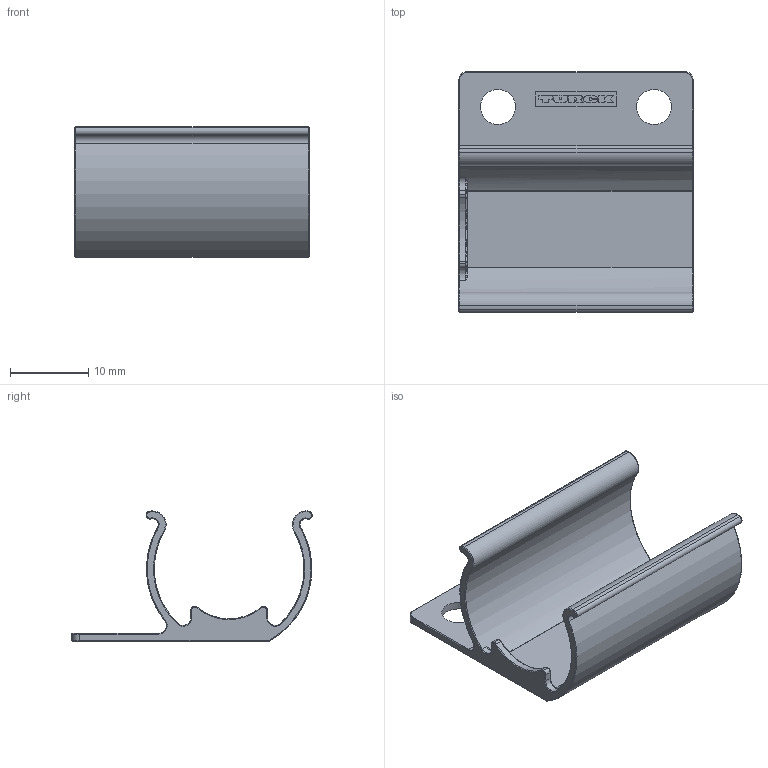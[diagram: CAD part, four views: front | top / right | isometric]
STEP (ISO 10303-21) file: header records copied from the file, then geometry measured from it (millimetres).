
FILE_DESCRIPTION (( 'STEP AP203' ), '1' );
FILE_NAME ('Holder_VBR.STEP', '2019-05-10T08:52:33', ( '' ), ( '' ), 'SwSTEP 2.0', 'SolidWorks 2018', '' );
FILE_SCHEMA (( 'CONFIG_CONTROL_DESIGN' ));
Length unit declared in the file: millimetre
Products named in the file (1): Holder_VBR
Bounding box: 30 x 30.83 x 16.68 mm (x, y, z)
Volume: 1903.7 mm3; surface area: 3873.3 mm2
Topology: 6 solids, 6 shells, 177 faces, 438 edges, 270 vertices
Faces by surface type: bspline 70, plane 61, cylinder 46
Entity records: 6303 total; most frequent: CARTESIAN_POINT 2416, ORIENTED_EDGE 868, DIRECTION 704, EDGE_CURVE 434, VERTEX_POINT 270, AXIS2_PLACEMENT_3D 250, VECTOR 204, LINE 204
